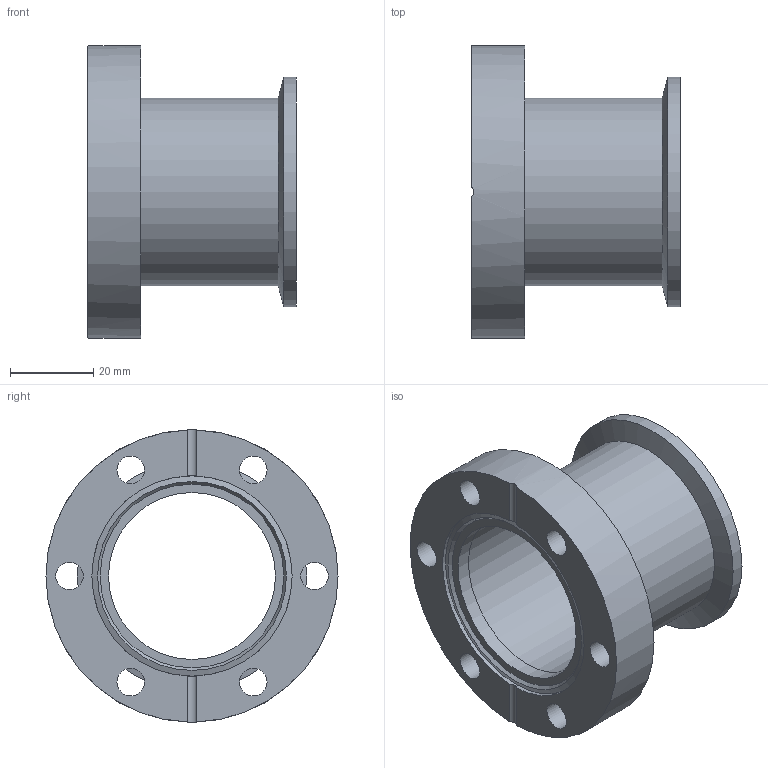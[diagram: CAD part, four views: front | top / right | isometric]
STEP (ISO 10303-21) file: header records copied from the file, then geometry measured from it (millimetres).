
FILE_DESCRIPTION( ( 'Unknown' ), '1' );
FILE_NAME( 'X:/Daten ( aktueller Bestand )/Projekte und Zeichnungen/Solid Edge/STP-Dateien/CF-Teile/7185.stp', 'Unknown', ( 'Unknown' ), ( 'Unknown' ), 'PSStep 14.0', 'Unknown', ' ' );
FILE_SCHEMA( ( 'AUTOMOTIVE_DESIGN { 1 0 10303 214 1 1 1 1 }' ) );
Length unit declared in the file: millimetre
Products named in the file (3): Assem1; 7185-3; 7185-1
Assembly tree (2 placements, depth 2):
  Assem1
    7185-3
    7185-1
Bounding box: 50 x 70 x 70 mm (x, y, z)
Volume: 44842.7 mm3; surface area: 25174.5 mm2
Topology: 2 solids, 2 shells, 27 faces, 67 edges, 46 vertices
Faces by surface type: cylinder 16, plane 8, cone 3
Full cylindrical faces by diameter (mm): 6.6 x6, 40 x2, 41.2 x1, 45 x2, 48 x1, 55 x1, 70 x1
Entity records: 1006 total; most frequent: CARTESIAN_POINT 160, DIRECTION 130, ORIENTED_EDGE 82, AXIS2_PLACEMENT_3D 63, EDGE_LOOP 62, FACE_OUTER_BOUND 41, EDGE_CURVE 41, VERTEX_POINT 37
